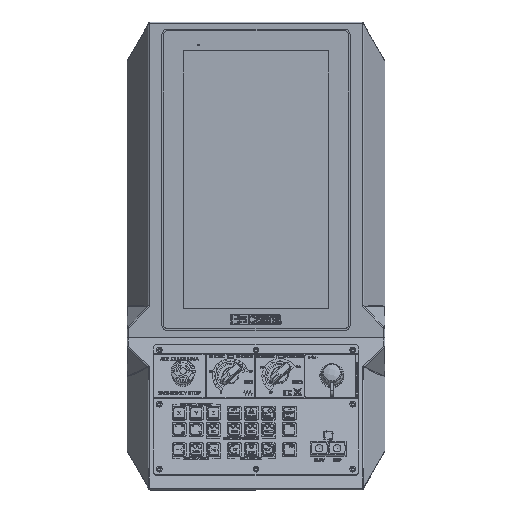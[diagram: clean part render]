
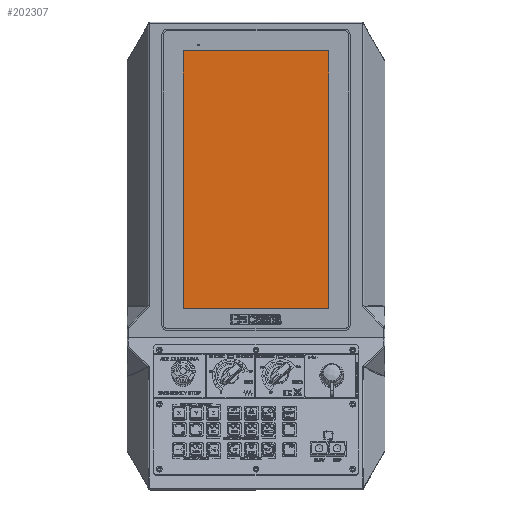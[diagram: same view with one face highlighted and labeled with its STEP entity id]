
A CAD part, top view. The second image highlights one B-rep face of the part: STEP entity #202307.
In plain terms, the highlighted planar face has unit normal (0, 0, 1).
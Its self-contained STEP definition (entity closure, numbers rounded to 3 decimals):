
#2116 = DIRECTION ( 'NONE',  ( 0., 1., 0. ) ) ;
#3234 = VERTEX_POINT ( 'NONE', #231543 ) ;
#3981 = CARTESIAN_POINT ( 'NONE',  ( -172.28, -96.995, 5.3 ) ) ;
#21467 = EDGE_CURVE ( 'NONE', #3234, #96694, #254451, .T. ) ;
#28929 = DIRECTION ( 'NONE',  ( -1., 0., 0. ) ) ;
#37129 = CARTESIAN_POINT ( 'NONE',  ( -172.28, 96.995, 5.3 ) ) ;
#37400 = ORIENTED_EDGE ( 'NONE', *, *, #288326, .T. ) ;
#38592 = LINE ( 'NONE', #37129, #163742 ) ;
#51928 = ORIENTED_EDGE ( 'NONE', *, *, #225835, .T. ) ;
#64019 = LINE ( 'NONE', #137650, #127741 ) ;
#65793 = VERTEX_POINT ( 'NONE', #79033 ) ;
#75078 = CARTESIAN_POINT ( 'NONE',  ( 0., 0., 5.3 ) ) ;
#77963 = DIRECTION ( 'NONE',  ( 1., 0., 0. ) ) ;
#79033 = CARTESIAN_POINT ( 'NONE',  ( 172.28, -96.995, 5.3 ) ) ;
#91945 = ORIENTED_EDGE ( 'NONE', *, *, #256500, .T. ) ;
#93989 = VECTOR ( 'NONE', #28929, 1000. ) ;
#94101 = AXIS2_PLACEMENT_3D ( 'NONE', #75078, #100078, #77963 ) ;
#94862 = CARTESIAN_POINT ( 'NONE',  ( -172.28, -96.995, 5.3 ) ) ;
#96694 = VERTEX_POINT ( 'NONE', #273806 ) ;
#100078 = DIRECTION ( 'NONE',  ( 0., 0., 1. ) ) ;
#122227 = FACE_OUTER_BOUND ( 'NONE', #240820, .T. ) ;
#127741 = VECTOR ( 'NONE', #2116, 1000. ) ;
#137650 = CARTESIAN_POINT ( 'NONE',  ( 172.28, 96.995, 5.3 ) ) ;
#163742 = VECTOR ( 'NONE', #264134, 1000. ) ;
#165632 = LINE ( 'NONE', #94862, #286430 ) ;
#188581 = PLANE ( 'NONE',  #94101 ) ;
#193797 = ORIENTED_EDGE ( 'NONE', *, *, #21467, .T. ) ;
#201377 = VERTEX_POINT ( 'NONE', #3981 ) ;
#202307 = ADVANCED_FACE ( 'NONE', ( #122227 ), #188581, .T. ) ;
#225835 = EDGE_CURVE ( 'NONE', #65793, #3234, #64019, .T. ) ;
#231543 = CARTESIAN_POINT ( 'NONE',  ( 172.28, 96.995, 5.3 ) ) ;
#231924 = DIRECTION ( 'NONE',  ( 1., 0., 0. ) ) ;
#240820 = EDGE_LOOP ( 'NONE', ( #51928, #193797, #91945, #37400 ) ) ;
#254451 = LINE ( 'NONE', #275132, #93989 ) ;
#256500 = EDGE_CURVE ( 'NONE', #96694, #201377, #38592, .T. ) ;
#264134 = DIRECTION ( 'NONE',  ( 0., -1., 0. ) ) ;
#273806 = CARTESIAN_POINT ( 'NONE',  ( -172.28, 96.995, 5.3 ) ) ;
#275132 = CARTESIAN_POINT ( 'NONE',  ( -172.28, 96.995, 5.3 ) ) ;
#286430 = VECTOR ( 'NONE', #231924, 1000. ) ;
#288326 = EDGE_CURVE ( 'NONE', #201377, #65793, #165632, .T. ) ;
